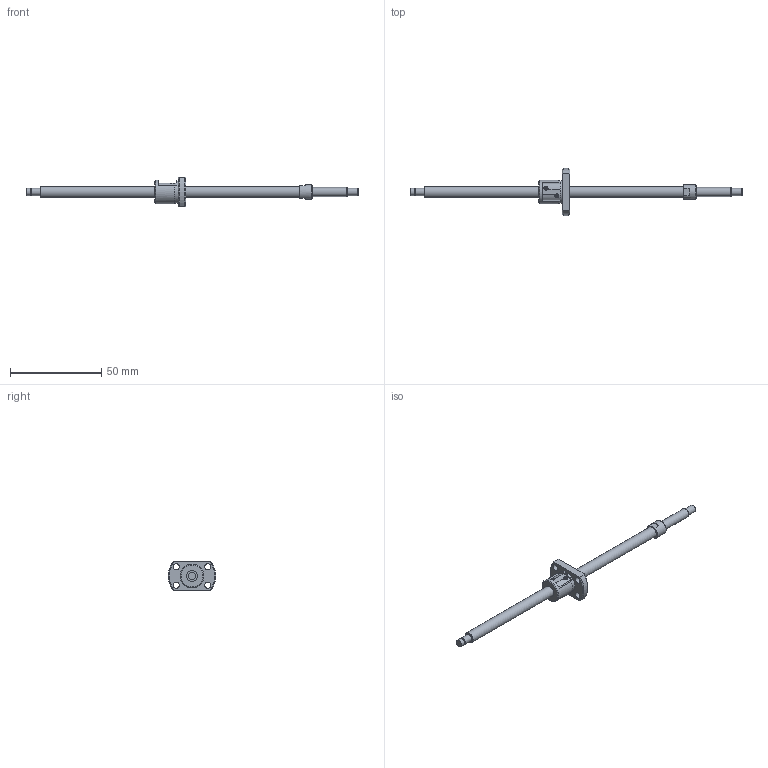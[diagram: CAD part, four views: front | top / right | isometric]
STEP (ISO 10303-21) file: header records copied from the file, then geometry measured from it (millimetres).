
FILE_DESCRIPTION(/* description */ ('STEP AP214'),/* implementation_level */ '2;1');
FILE_NAME(/* name */ 'SRT0601-138R182C7B0X(62.5Processing)',/* time_stamp */ '2026-08-04T17:53:12+02:00',/* author */ ('License CC BY-ND 4.0'),/* organization */ ('CADENAS'),/* preprocessor_version */ 'ST-DEVELOPER v20',/* originating_system */ 'PARTsolutions',/* authorisation */ ' ');
FILE_SCHEMA (('AUTOMOTIVE_DESIGN {1 0 10303 214 3 1 1}'));
Length unit declared in the file: millimetre
Products named in the file (3): SRT0601-138R182C7B0X(62.5Processing); SRT0601-138R220BCt7Processing13Shaft; SRT0601Nut
Assembly tree (2 placements, depth 2):
  SRT0601-138R182C7B0X(62.5Processing)
    SRT0601-138R220BCt7Processing13Shaft
    SRT0601Nut
Bounding box: 182 x 26 x 16 mm (x, y, z)
Volume: 7381.7 mm3; surface area: 5394.7 mm2
Topology: 2 solids, 2 shells, 66 faces, 162 edges, 107 vertices
Faces by surface type: plane 33, cylinder 20, cone 12, torus 1
Full cylindrical faces by diameter (mm): 1 x2, 3.4 x4, 3.7 x1, 4 x3, 5 x1, 6 x2, 8 x1, 12.5 x1, 13 x1
Entity records: 1847 total; most frequent: CARTESIAN_POINT 351, DIRECTION 308, ORIENTED_EDGE 248, AXIS2_PLACEMENT_3D 133, EDGE_CURVE 124, EDGE_LOOP 108, FACE_BOUND 108, VERTEX_POINT 94
